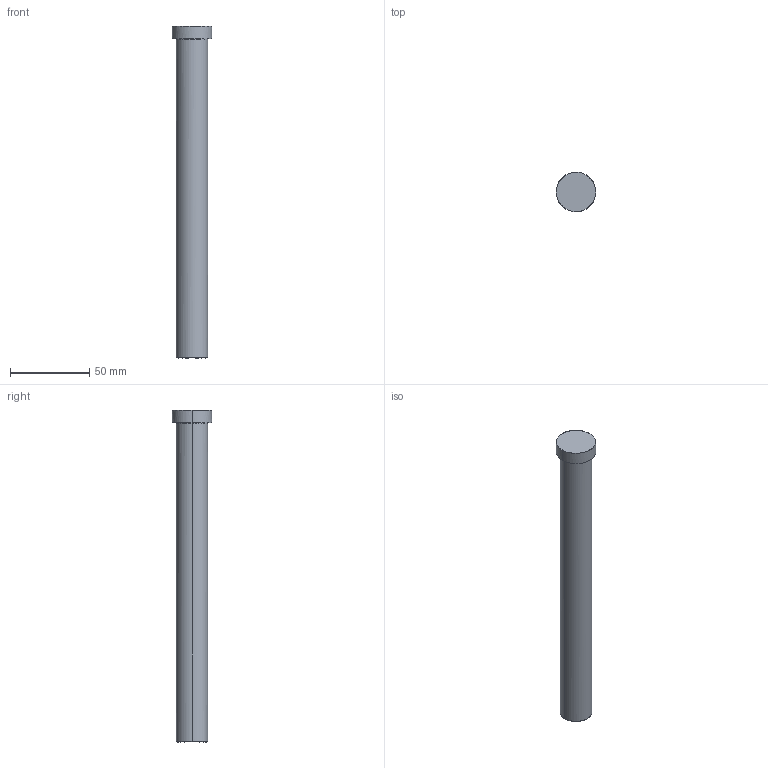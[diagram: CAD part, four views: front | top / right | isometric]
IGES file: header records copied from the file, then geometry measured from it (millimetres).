
Global section: file name: E:\UnigraphicsGraphicData\MISUMI_PRESS-PARTS\IGES\3d_hcup20-210_01340_r00.igs; native system: NX V5.0; preprocessor: UGS NX IGES V5.0; author: MISUMI; date: 20110105.160934; units: millimetre
Bounding box: 25 x 25 x 210 mm (x, y, z)
Surface area: 14273 mm2 (no closed solid volume)
Topology: 0 solids, 0 shells, 11 faces, 64 edges, 64 vertices
Faces by surface type: bspline 11
